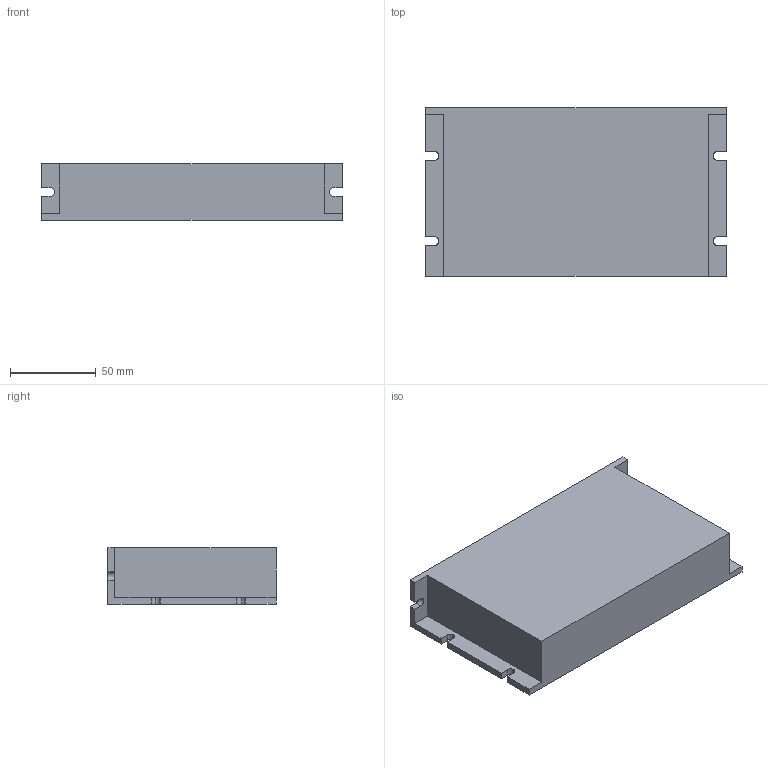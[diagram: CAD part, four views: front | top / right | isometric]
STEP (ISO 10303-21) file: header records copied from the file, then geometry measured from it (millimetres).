
FILE_DESCRIPTION (( 'STEP AP214' ), '1' );
FILE_NAME ('DRV400-750.STEP', '2021-08-16T07:29:10', ( '微软用户' ), ( '微软中国' ), 'SwSTEP 2.0', 'SolidWorks 2020', '' );
FILE_SCHEMA (( 'AUTOMOTIVE_DESIGN' ));
Length unit declared in the file: millimetre
Products named in the file (1): DRV400-750
Bounding box: 175 x 98 x 33 mm (x, y, z)
Volume: 507848.4 mm3; surface area: 52206.7 mm2
Topology: 1 solids, 1 shells, 38 faces, 108 edges, 72 vertices
Faces by surface type: plane 30, cylinder 8
Entity records: 1262 total; most frequent: CARTESIAN_POINT 219, ORIENTED_EDGE 216, DIRECTION 202, EDGE_CURVE 108, VECTOR 92, LINE 92, VERTEX_POINT 72, AXIS2_PLACEMENT_3D 55
